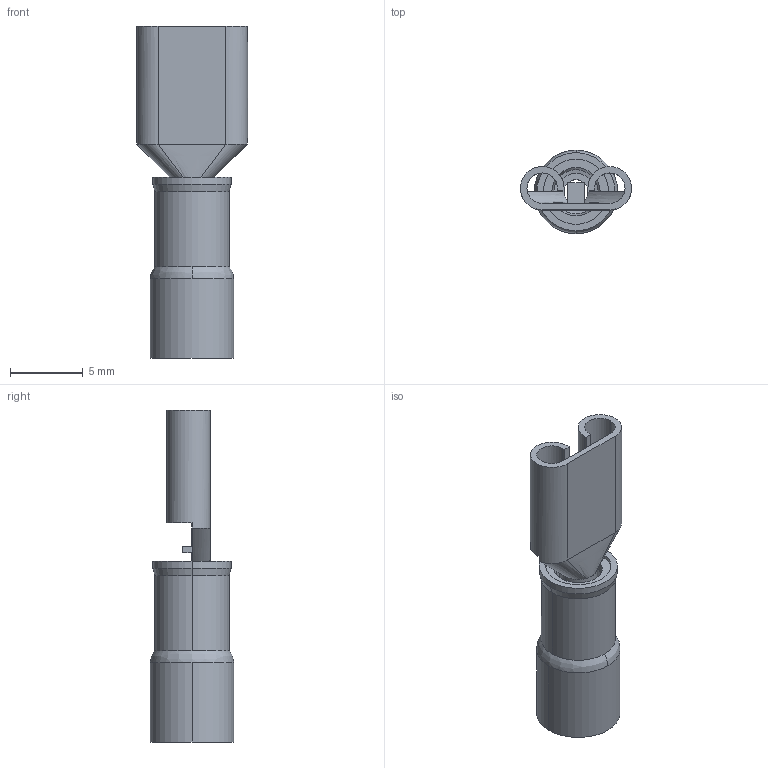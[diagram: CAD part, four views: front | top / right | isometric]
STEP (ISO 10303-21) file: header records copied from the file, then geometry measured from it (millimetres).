
FILE_DESCRIPTION (( 'STEP AP214' ), '1' );
FILE_NAME ('640903-2.STEP', '2013-04-05T12:27:26', ( 'Tester2' ), ( '' ), 'SwSTEP 2.0', 'SolidWorks 2012', '' );
FILE_SCHEMA (( 'AUTOMOTIVE_DESIGN' ));
Length unit declared in the file: millimetre
Products named in the file (1): 640903-2
Bounding box: 7.65 x 5.74 x 22.86 mm (x, y, z)
Volume: 239.2 mm3; surface area: 790.2 mm2
Topology: 2 solids, 2 shells, 66 faces, 164 edges, 104 vertices
Faces by surface type: cylinder 24, plane 24, bspline 10, cone 8
Entity records: 3098 total; most frequent: CARTESIAN_POINT 766, ORIENTED_EDGE 328, DIRECTION 323, EDGE_CURVE 164, AXIS2_PLACEMENT_3D 123, VERTEX_POINT 104, LINE 77, VECTOR 77
